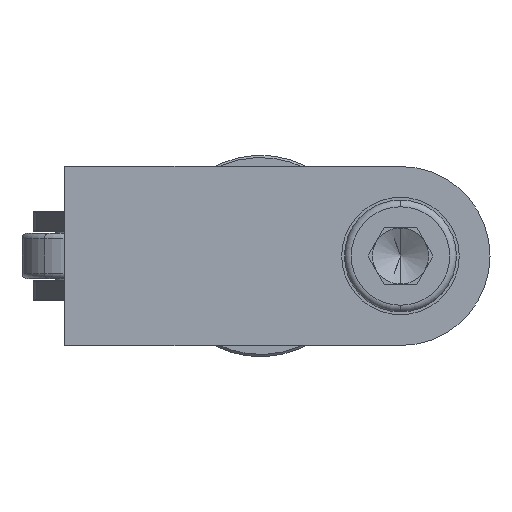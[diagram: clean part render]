
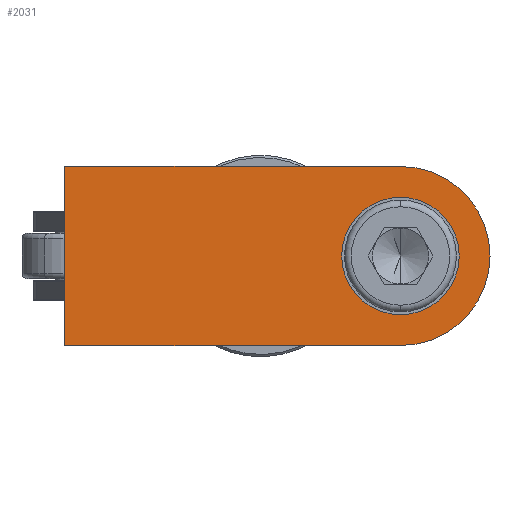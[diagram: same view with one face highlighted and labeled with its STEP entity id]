
A CAD part, front view. The second image highlights one B-rep face of the part: STEP entity #2031.
In plain terms, the highlighted planar face has unit normal (0, -1, 0).
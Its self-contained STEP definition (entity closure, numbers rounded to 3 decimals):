
#19 = EDGE_CURVE ( 'NONE', #2616, #7663, #5900, .T. ) ;
#455 = EDGE_CURVE ( 'NONE', #533, #5500, #11329, .T. ) ;
#533 = VERTEX_POINT ( 'NONE', #8856 ) ;
#608 = DIRECTION ( 'NONE',  ( 0., -1., 0. ) ) ;
#687 = EDGE_LOOP ( 'NONE', ( #9748, #4077, #4304, #1368 ) ) ;
#696 = AXIS2_PLACEMENT_3D ( 'NONE', #9328, #608, #3826 ) ;
#748 = CARTESIAN_POINT ( 'NONE',  ( 12.5, 0., -5.25 ) ) ;
#914 = CARTESIAN_POINT ( 'NONE',  ( -17.5, 0., 8. ) ) ;
#1209 = CARTESIAN_POINT ( 'NONE',  ( -17.5, 0., -8. ) ) ;
#1368 = ORIENTED_EDGE ( 'NONE', *, *, #19, .F. ) ;
#1710 = EDGE_CURVE ( 'NONE', #7663, #10768, #9764, .T. ) ;
#2031 = ADVANCED_FACE ( 'NONE', ( #8634, #7668 ), #8898, .F. ) ;
#2340 = ORIENTED_EDGE ( 'NONE', *, *, #8427, .F. ) ;
#2532 = CIRCLE ( 'NONE', #7650, 5.25 ) ;
#2616 = VERTEX_POINT ( 'NONE', #1209 ) ;
#2736 = DIRECTION ( 'NONE',  ( 0., 0., -1. ) ) ;
#2809 = AXIS2_PLACEMENT_3D ( 'NONE', #4564, #3593, #2736 ) ;
#3593 = DIRECTION ( 'NONE',  ( 0., -1., 0. ) ) ;
#3826 = DIRECTION ( 'NONE',  ( 0., 0., 1. ) ) ;
#4077 = ORIENTED_EDGE ( 'NONE', *, *, #9229, .T. ) ;
#4304 = ORIENTED_EDGE ( 'NONE', *, *, #1710, .F. ) ;
#4449 = DIRECTION ( 'NONE',  ( 0., 0., 1. ) ) ;
#4564 = CARTESIAN_POINT ( 'NONE',  ( 12.5, 0., 0. ) ) ;
#5048 = VECTOR ( 'NONE', #7424, 1000. ) ;
#5062 = ORIENTED_EDGE ( 'NONE', *, *, #455, .F. ) ;
#5445 = VERTEX_POINT ( 'NONE', #10390 ) ;
#5500 = VERTEX_POINT ( 'NONE', #748 ) ;
#5686 = CARTESIAN_POINT ( 'NONE',  ( 12.5, 0., 0. ) ) ;
#5761 = AXIS2_PLACEMENT_3D ( 'NONE', #914, #11487, #4449 ) ;
#5765 = DIRECTION ( 'NONE',  ( -1., 0., 0. ) ) ;
#5900 = LINE ( 'NONE', #10971, #5048 ) ;
#6569 = DIRECTION ( 'NONE',  ( 0., 0., -1. ) ) ;
#6717 = VECTOR ( 'NONE', #10739, 1000. ) ;
#7360 = EDGE_CURVE ( 'NONE', #5445, #2616, #10924, .T. ) ;
#7424 = DIRECTION ( 'NONE',  ( 0., 0., 1. ) ) ;
#7650 = AXIS2_PLACEMENT_3D ( 'NONE', #5686, #10053, #6569 ) ;
#7663 = VERTEX_POINT ( 'NONE', #8767 ) ;
#7668 = FACE_OUTER_BOUND ( 'NONE', #687, .T. ) ;
#7922 = EDGE_LOOP ( 'NONE', ( #2340, #5062 ) ) ;
#8427 = EDGE_CURVE ( 'NONE', #5500, #533, #2532, .T. ) ;
#8532 = CARTESIAN_POINT ( 'NONE',  ( -17.5, 0., -8. ) ) ;
#8543 = VECTOR ( 'NONE', #5765, 1000. ) ;
#8634 = FACE_BOUND ( 'NONE', #7922, .T. ) ;
#8767 = CARTESIAN_POINT ( 'NONE',  ( -17.5, 0., 8. ) ) ;
#8856 = CARTESIAN_POINT ( 'NONE',  ( 12.5, 0., 5.25 ) ) ;
#8898 = PLANE ( 'NONE',  #5761 ) ;
#9229 = EDGE_CURVE ( 'NONE', #5445, #10768, #11386, .T. ) ;
#9328 = CARTESIAN_POINT ( 'NONE',  ( 12.5, 0., 0. ) ) ;
#9748 = ORIENTED_EDGE ( 'NONE', *, *, #7360, .F. ) ;
#9764 = LINE ( 'NONE', #9794, #6717 ) ;
#9794 = CARTESIAN_POINT ( 'NONE',  ( -17.5, 0., 8. ) ) ;
#10053 = DIRECTION ( 'NONE',  ( 0., -1., 0. ) ) ;
#10390 = CARTESIAN_POINT ( 'NONE',  ( 12.5, 0., -8. ) ) ;
#10739 = DIRECTION ( 'NONE',  ( 1., 0., 0. ) ) ;
#10768 = VERTEX_POINT ( 'NONE', #11351 ) ;
#10924 = LINE ( 'NONE', #8532, #8543 ) ;
#10971 = CARTESIAN_POINT ( 'NONE',  ( -17.5, 0., -8. ) ) ;
#11329 = CIRCLE ( 'NONE', #2809, 5.25 ) ;
#11351 = CARTESIAN_POINT ( 'NONE',  ( 12.5, 0., 8. ) ) ;
#11386 = CIRCLE ( 'NONE', #696, 8. ) ;
#11487 = DIRECTION ( 'NONE',  ( 0., 1., 0. ) ) ;
